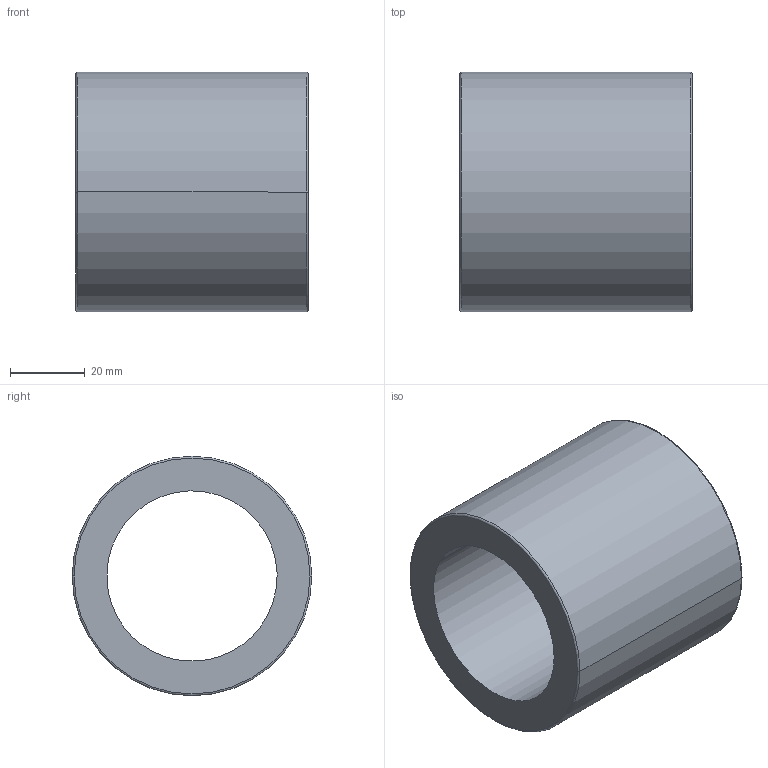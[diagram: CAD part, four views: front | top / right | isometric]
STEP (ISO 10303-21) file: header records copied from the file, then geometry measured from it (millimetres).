
FILE_DESCRIPTION(('CATIA V5 STEP Exchange'),'2;1');
FILE_NAME('C:\Users\aa\Documents\이댈\TM\STM\STM45.stp','2020-03-24T09:35:43+00:00',('none'),('none'),'CATIA Version 5 Release 20 SP 7 (IN-10)','CATIA V5 STEP AP203','none');
FILE_SCHEMA(('CONFIG_CONTROL_DESIGN'));
Length unit declared in the file: millimetre
Products named in the file (1): STM45
Bounding box: 62 x 64 x 64 mm (x, y, z)
Volume: 98621.8 mm3; surface area: 24423.8 mm2
Topology: 1 solids, 1 shells, 10 faces, 20 edges, 12 vertices
Faces by surface type: cylinder 4, torus 4, plane 2
Entity records: 322 total; most frequent: CARTESIAN_POINT 71, ORIENTED_EDGE 40, DIRECTION 38, AXIS2_PLACEMENT_3D 25, EDGE_CURVE 20, CIRCLE 14, EDGE_LOOP 12, VERTEX_POINT 12
